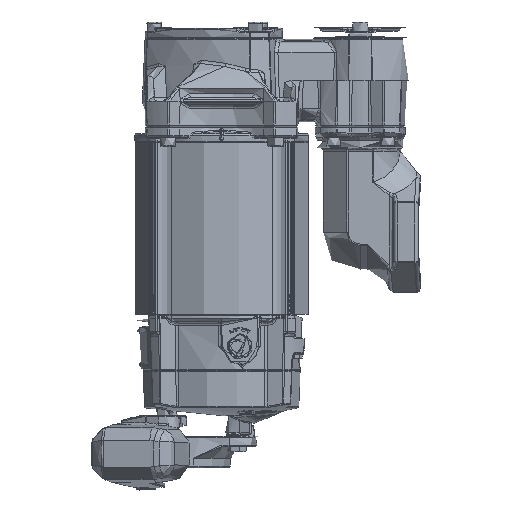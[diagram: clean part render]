
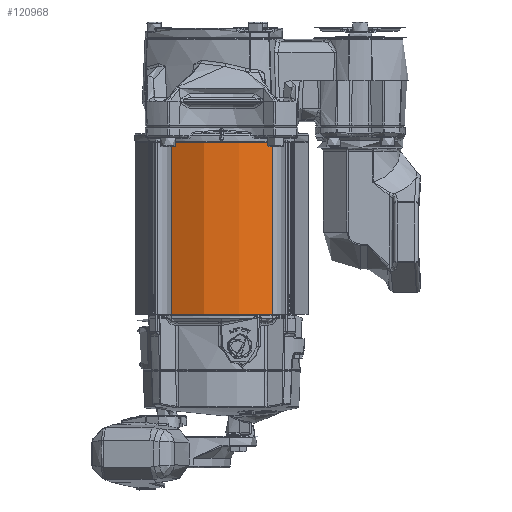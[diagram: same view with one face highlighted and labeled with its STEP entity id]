
A CAD part, left-side view. The second image highlights one B-rep face of the part: STEP entity #120968.
In plain terms, the highlighted cylindrical face has radius 74.93 mm (diameter 149.86 mm), a partial arc.
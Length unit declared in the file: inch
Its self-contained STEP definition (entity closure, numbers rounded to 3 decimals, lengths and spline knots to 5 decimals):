
#7483=LINE('',#292708,#12294);
#7484=LINE('',#292710,#12295);
#12294=VECTOR('',#154201,0.3937);
#12295=VECTOR('',#154204,0.3937);
#14384=CYLINDRICAL_SURFACE('',#131433,2.95);
#19853=FACE_OUTER_BOUND('',#27317,.T.);
#27317=EDGE_LOOP('',(#96041,#96042,#96043,#96044));
#31338=CIRCLE('',#126415,2.95);
#34410=CIRCLE('',#131376,2.95);
#45151=VERTEX_POINT('',#235749);
#45152=VERTEX_POINT('',#235751);
#50096=VERTEX_POINT('',#292591);
#50097=VERTEX_POINT('',#292593);
#57934=EDGE_CURVE('',#45152,#45151,#31338,.T.);
#65656=EDGE_CURVE('',#50097,#50096,#34410,.T.);
#65715=EDGE_CURVE('',#45151,#50097,#7483,.T.);
#65716=EDGE_CURVE('',#45152,#50096,#7484,.T.);
#96041=ORIENTED_EDGE('',*,*,#65656,.T.);
#96042=ORIENTED_EDGE('',*,*,#65716,.F.);
#96043=ORIENTED_EDGE('',*,*,#57934,.T.);
#96044=ORIENTED_EDGE('',*,*,#65715,.T.);
#120968=ADVANCED_FACE('',(#19853),#14384,.T.);
#126415=AXIS2_PLACEMENT_3D('',#235752,#141931,#141932);
#131376=AXIS2_PLACEMENT_3D('',#292594,#154033,#154034);
#131433=AXIS2_PLACEMENT_3D('',#292709,#154202,#154203);
#141931=DIRECTION('center_axis',(0.,0.,
-1.));
#141932=DIRECTION('ref_axis',(1.,0.,0.));
#154033=DIRECTION('center_axis',(0.,0.,
1.));
#154034=DIRECTION('ref_axis',(1.,0.,0.));
#154201=DIRECTION('',(0.,0.,-1.));
#154202=DIRECTION('center_axis',(0.,0.,
-1.));
#154203=DIRECTION('ref_axis',(-1.,0.,0.));
#154204=DIRECTION('',(0.,0.,-1.));
#235749=CARTESIAN_POINT('',(-2.4228,1.68301,-2.4985));
#235751=CARTESIAN_POINT('',(-2.4228,-1.68301,-2.4985));
#235752=CARTESIAN_POINT('Origin',(0.,0.,
-2.4985));
#292591=CARTESIAN_POINT('',(-2.4228,-1.68301,-8.2485));
#292593=CARTESIAN_POINT('',(-2.4228,1.68301,-8.2485));
#292594=CARTESIAN_POINT('Origin',(0.,0.,
-8.2485));
#292708=CARTESIAN_POINT('',(-2.4228,1.68301,-2.4985));
#292709=CARTESIAN_POINT('Origin',(0.,0.,
-2.4985));
#292710=CARTESIAN_POINT('',(-2.4228,-1.68301,-2.4985));
